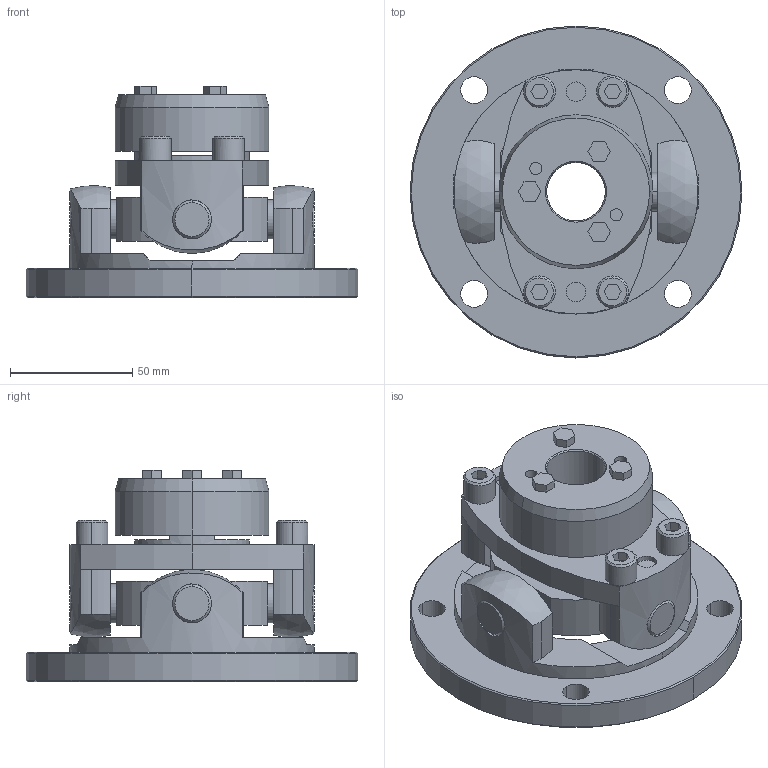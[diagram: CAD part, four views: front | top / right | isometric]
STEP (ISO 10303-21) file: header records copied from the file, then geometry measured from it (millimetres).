
FILE_DESCRIPTION((''),'2;1');
FILE_NAME('UCNF-100T7-24.stp','2015-10-28T08:10:04',(''),(''),'AutoCAD STEP 2000i','AutoCAD 2000i',', , ');
FILE_SCHEMA(('CONFIG_CONTROL_DESIGN'));
Length unit declared in the file: millimetre
Products named in the file (7): UCNF-100T7-25; 忣兜1; UCN100T7-T025; UCNF-10002; UCN100T7-T022-1; UCN100T7-T022; UCN100-SEN
Assembly tree (6 placements, depth 2):
  UCNF-100T7-25
    忣兜1
    UCN100T7-T025
    UCNF-10002
    UCN100T7-T022-1
    UCN100T7-T022
    UCN100-SEN
Bounding box: 136 x 136 x 86.5 mm (x, y, z)
Volume: 375201.8 mm3; surface area: 84534.1 mm2
Topology: 1 solids, 1 shells, 275 faces, 688 edges, 448 vertices
Faces by surface type: plane 129, cylinder 104, cone 38, sphere 4
Entity records: 8877 total; most frequent: CARTESIAN_POINT 1822, DIRECTION 1534, ORIENTED_EDGE 1376, EDGE_CURVE 688, AXIS2_PLACEMENT_3D 580, VERTEX_POINT 448, VECTOR 374, LINE 374
